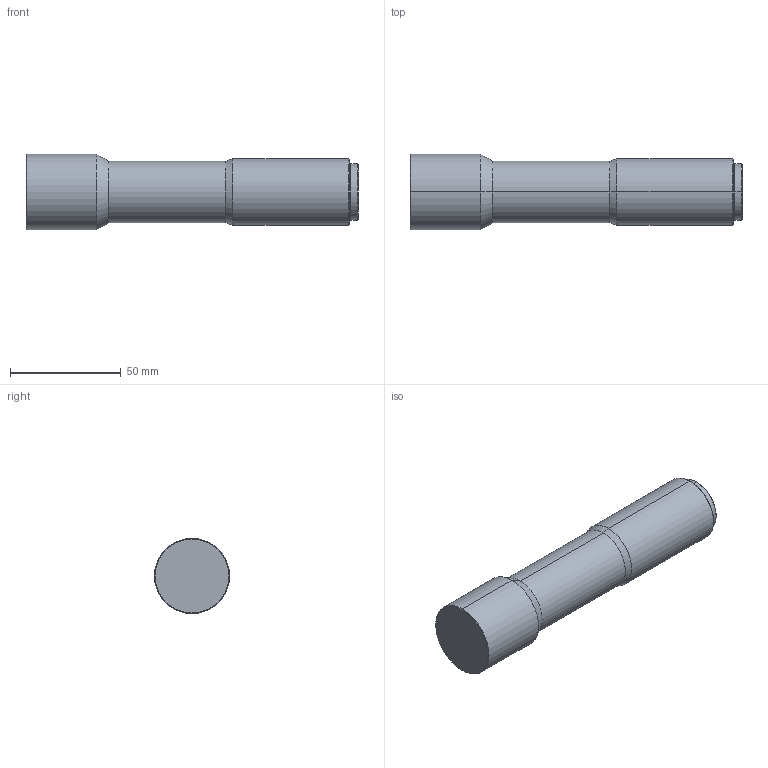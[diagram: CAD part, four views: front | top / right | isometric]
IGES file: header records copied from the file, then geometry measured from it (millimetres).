
Start section: SolidWorks IGES file using analytic representation for surfaces
Global section: file name: C:\Users\16255\Desktop\sw\WWK&WK\WWK\ｿﾉﾒﾔｻｭｵﾄ\WWK13-98-111\WWK13-98-111 IGESﾍｼ.IGS; native system: SolidWorks 2014; preprocessor: SolidWorks 2014; author: 16255; date: 191029.144229; units: millimetre
Bounding box: 150.1 x 34 x 34 mm (x, y, z)
Surface area: 15896.6 mm2 (no closed solid volume)
Topology: 0 solids, 0 shells, 24 faces, 336 edges, 336 vertices
Faces by surface type: revolution 20, bspline 4
